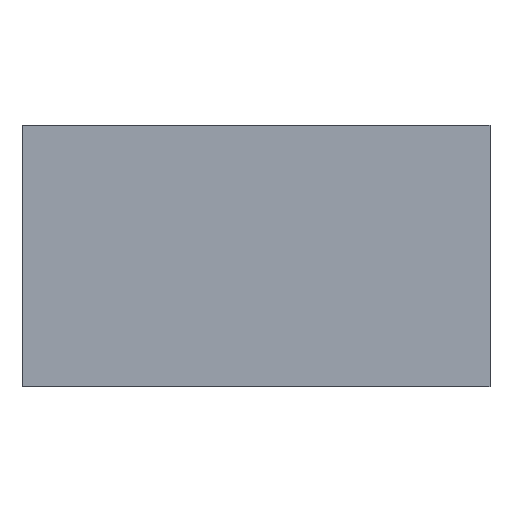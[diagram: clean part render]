
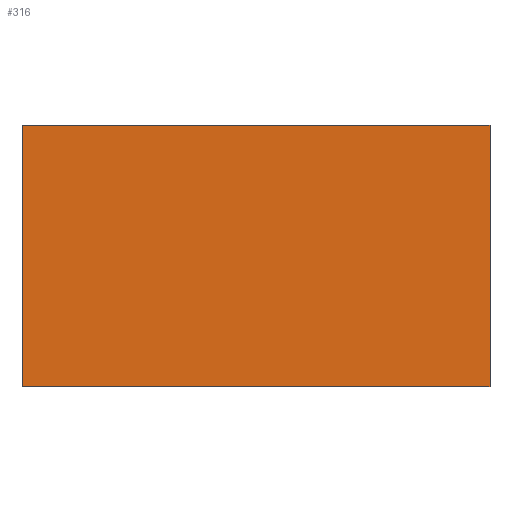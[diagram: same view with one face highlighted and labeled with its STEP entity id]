
A CAD part, front view. The second image highlights one B-rep face of the part: STEP entity #316.
In plain terms, the highlighted planar face has unit normal (0, -1, 0).
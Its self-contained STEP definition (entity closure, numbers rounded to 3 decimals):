
#17 = EDGE_LOOP ( 'NONE', ( #56, #55, #54, #53 ) ) ;
#53 = ORIENTED_EDGE ( 'NONE', *, *, #271, .T. ) ;
#54 = ORIENTED_EDGE ( 'NONE', *, *, #267, .F. ) ;
#55 = ORIENTED_EDGE ( 'NONE', *, *, #296, .F. ) ;
#56 = ORIENTED_EDGE ( 'NONE', *, *, #285, .T. ) ;
#130 = LINE ( 'NONE', #393, #131 ) ;
#131 = VECTOR ( 'NONE', #394, 1000. ) ;
#134 = LINE ( 'NONE', #404, #135 ) ;
#135 = VECTOR ( 'NONE', #405, 1000. ) ;
#154 = LINE ( 'NONE', #413, #155 ) ;
#155 = VECTOR ( 'NONE', #414, 1000. ) ;
#166 = LINE ( 'NONE', #426, #167 ) ;
#167 = VECTOR ( 'NONE', #427, 1000. ) ;
#190 = FACE_OUTER_BOUND ( 'NONE', #17, .T. ) ;
#234 = VERTEX_POINT ( 'NONE', #360 ) ;
#235 = VERTEX_POINT ( 'NONE', #361 ) ;
#238 = VERTEX_POINT ( 'NONE', #362 ) ;
#267 = EDGE_CURVE ( 'NONE', #345, #238, #130, .T. ) ;
#271 = EDGE_CURVE ( 'NONE', #345, #235, #134, .T. ) ;
#277 = AXIS2_PLACEMENT_3D ( 'NONE', #458, #467, #468 ) ;
#285 = EDGE_CURVE ( 'NONE', #235, #234, #154, .T. ) ;
#296 = EDGE_CURVE ( 'NONE', #238, #234, #166, .T. ) ;
#316 = ADVANCED_FACE ( 'NONE', ( #190 ), #455, .F. ) ;
#345 = VERTEX_POINT ( 'NONE', #526 ) ;
#360 = CARTESIAN_POINT ( 'NONE',  ( 60.5, -5.5, 49.7 ) ) ;
#361 = CARTESIAN_POINT ( 'NONE',  ( 60.5, -5.5, -17.9 ) ) ;
#362 = CARTESIAN_POINT ( 'NONE',  ( -60.5, -5.5, 49.7 ) ) ;
#393 = CARTESIAN_POINT ( 'NONE',  ( -60.5, -5.5, -17.9 ) ) ;
#394 = DIRECTION ( 'NONE',  ( 0., 0., 1. ) ) ;
#404 = CARTESIAN_POINT ( 'NONE',  ( -60.5, -5.5, -17.9 ) ) ;
#405 = DIRECTION ( 'NONE',  ( 1., 0., 0. ) ) ;
#413 = CARTESIAN_POINT ( 'NONE',  ( 60.5, -5.5, -17.9 ) ) ;
#414 = DIRECTION ( 'NONE',  ( 0., 0., 1. ) ) ;
#426 = CARTESIAN_POINT ( 'NONE',  ( -60.5, -5.5, 49.7 ) ) ;
#427 = DIRECTION ( 'NONE',  ( 1., 0., 0. ) ) ;
#455 = PLANE ( 'NONE',  #277 ) ;
#458 = CARTESIAN_POINT ( 'NONE',  ( -60.5, -5.5, -17.9 ) ) ;
#467 = DIRECTION ( 'NONE',  ( 0., 1., 0. ) ) ;
#468 = DIRECTION ( 'NONE',  ( 0., 0., -1. ) ) ;
#526 = CARTESIAN_POINT ( 'NONE',  ( -60.5, -5.5, -17.9 ) ) ;
